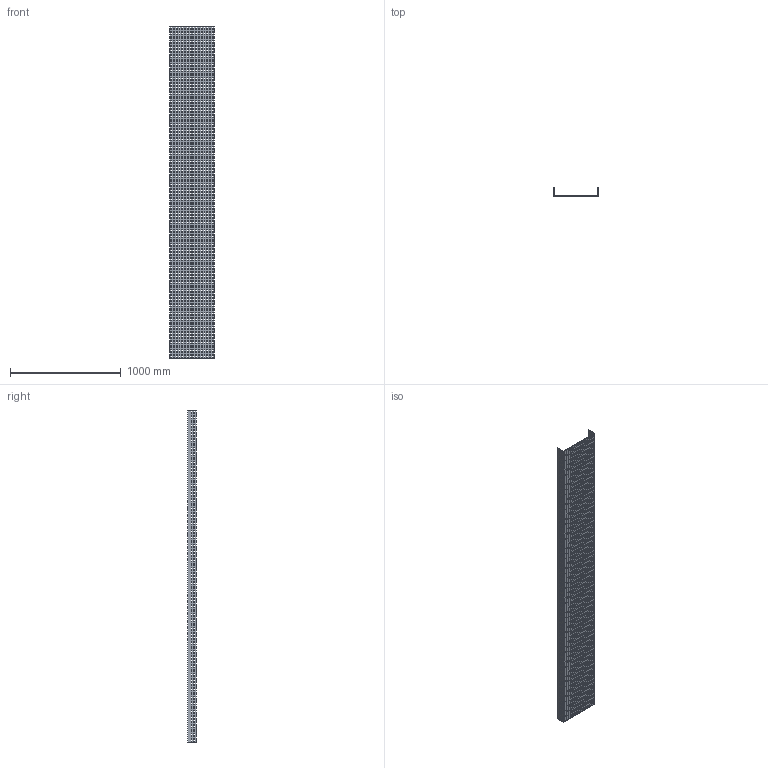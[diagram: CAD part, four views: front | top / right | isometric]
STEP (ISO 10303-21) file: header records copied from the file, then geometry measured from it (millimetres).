
FILE_DESCRIPTION (( 'STEP AP214' ), '1' );
FILE_NAME ('01F3C400.step', '2025-02-21T13:28:52', ( '' ), ( '' ), 'SwSTEP 2.0', 'SolidWorks 2023', '' );
FILE_SCHEMA (( 'AUTOMOTIVE_DESIGN' ));
Length unit declared in the file: millimetre
Products named in the file (1): 01F3C400
Bounding box: 404 x 79 x 3000 mm (x, y, z)
Volume: 4945500 mm3; surface area: 3173445 mm2
Topology: 1 solids, 1 shells, 5770 faces, 17304 edges, 11536 vertices
Faces by surface type: plane 5770
Entity records: 196151 total; most frequent: CARTESIAN_POINT 34611, ORIENTED_EDGE 34608, DIRECTION 28846, VECTOR 17304, LINE 17304, EDGE_CURVE 17304, VERTEX_POINT 11536, EDGE_LOOP 8650
